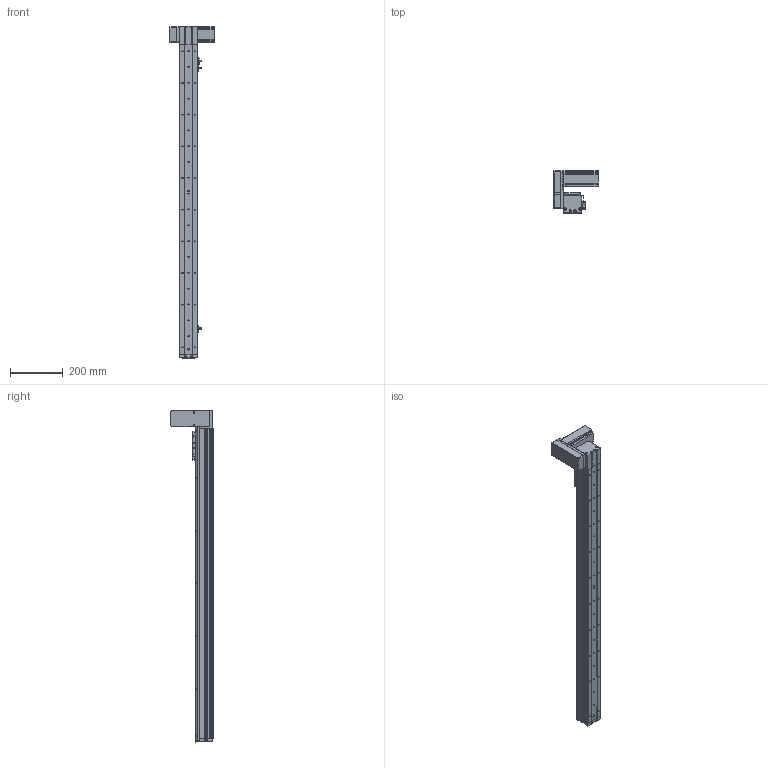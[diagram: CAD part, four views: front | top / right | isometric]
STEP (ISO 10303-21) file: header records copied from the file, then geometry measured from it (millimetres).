
FILE_DESCRIPTION (( 'STEP AP214' ), '1' );
FILE_NAME ('KSD68BS-S1000-MRU-CR.STEP', '2019-08-28T06:30:36', ( '微软用户' ), ( '微软中国' ), 'SwSTEP 2.0', 'SolidWorks 2014', '' );
FILE_SCHEMA (( 'AUTOMOTIVE_DESIGN' ));
Length unit declared in the file: millimetre
Products named in the file (14): 68遵裔啣揤啣1; 68宽单导轨全封闭丝杆传动安装板1防护罩; KSD68BS 1000行程侧板全封闭; 68宽单导轨全封闭同步带端板; 68单导轨全封闭同步带电机座右; 68单导轨全封闭同步带安装板; 悵誘欶奻狟殏; 68宽马达安装板连板上折同步带; 感应片68宽全封闭; U倰嫖萇EEㄜSX672; 台达ECMA－C20604AS伺服电机（400W); KSD68BS 1000行程底板全封闭; KSD68BS-S1000-MRU-CR; KSD68BS 1000行程盖板全封闭
Assembly tree (17 placements, depth 2):
  KSD68BS-S1000-MRU-CR
    KSD68BS 1000行程底板全封闭
    台达ECMA－C20604AS伺服电机（400W)
    U倰嫖萇EEㄜSX672  x3
    感应片68宽全封闭
    68宽马达安装板连板上折同步带
    悵誘欶奻狟殏
    68单导轨全封闭同步带安装板
    68单导轨全封闭同步带电机座右
    68宽单导轨全封闭同步带端板
    KSD68BS 1000行程侧板全封闭  x2
    68宽单导轨全封闭丝杆传动安装板1防护罩
    68遵裔啣揤啣1  x2
    KSD68BS 1000行程盖板全封闭
Bounding box: 167.2 x 159.5 x 1258.1 mm (x, y, z)
Volume: 2536816.1 mm3; surface area: 972485.4 mm2
Topology: 18 solids, 18 shells, 1526 faces, 4343 edges, 2775 vertices
Faces by surface type: cylinder 727, plane 631, cone 168
Entity records: 48402 total; most frequent: CARTESIAN_POINT 8285, DIRECTION 7251, ORIENTED_EDGE 6930, EDGE_CURVE 3465, AXIS2_PLACEMENT_3D 2619, VERTEX_POINT 2273, LINE 2013, VECTOR 2013
